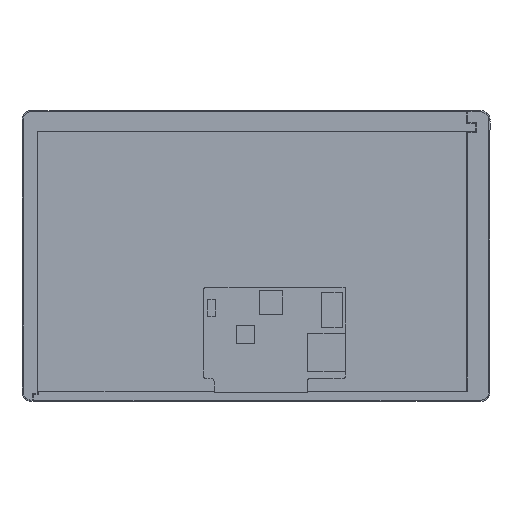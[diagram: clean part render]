
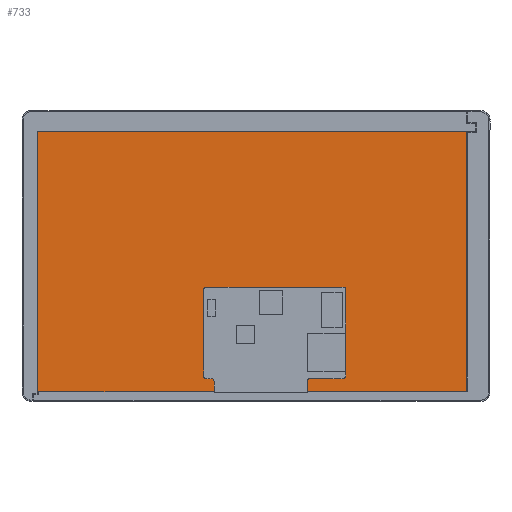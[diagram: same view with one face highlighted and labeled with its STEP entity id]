
A CAD part, top view. The second image highlights one B-rep face of the part: STEP entity #733.
In plain terms, the highlighted planar face has unit normal (0, 0, 1).
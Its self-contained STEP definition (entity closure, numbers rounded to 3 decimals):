
#141=B_SPLINE_CURVE_WITH_KNOTS('',3,(#2866,#2867,#2868,#2869),
 .UNSPECIFIED.,.F.,.F.,(4,4),(0.,1.),.UNSPECIFIED.);
#143=B_SPLINE_CURVE_WITH_KNOTS('',3,(#2881,#2882,#2883,#2884),
 .UNSPECIFIED.,.F.,.F.,(4,4),(0.,1.),.UNSPECIFIED.);
#145=B_SPLINE_CURVE_WITH_KNOTS('',3,(#2893,#2894,#2895,#2896),
 .UNSPECIFIED.,.F.,.F.,(4,4),(0.,1.),.UNSPECIFIED.);
#147=B_SPLINE_CURVE_WITH_KNOTS('',3,(#2905,#2906,#2907,#2908),
 .UNSPECIFIED.,.F.,.F.,(4,4),(0.,1.),.UNSPECIFIED.);
#733=ADVANCED_FACE('',(#925),#832,.F.);
#832=PLANE('',#2313);
#925=FACE_OUTER_BOUND('',#1024,.T.);
#1024=EDGE_LOOP('',(#1249,#1250,#1251,#1252));
#1249=ORIENTED_EDGE('',*,*,#1788,.T.);
#1250=ORIENTED_EDGE('',*,*,#1792,.T.);
#1251=ORIENTED_EDGE('',*,*,#1795,.T.);
#1252=ORIENTED_EDGE('',*,*,#1798,.T.);
#1611=VERTEX_POINT('',#2870);
#1612=VERTEX_POINT('',#2871);
#1615=VERTEX_POINT('',#2885);
#1617=VERTEX_POINT('',#2897);
#1788=EDGE_CURVE('',#1611,#1612,#141,.T.);
#1792=EDGE_CURVE('',#1612,#1615,#143,.T.);
#1795=EDGE_CURVE('',#1615,#1617,#145,.T.);
#1798=EDGE_CURVE('',#1617,#1611,#147,.T.);
#2313=AXIS2_PLACEMENT_3D('',#2915,#2505,#2506);
#2505=DIRECTION('',(0.,0.,-1.));
#2506=DIRECTION('',(-1.,0.,0.));
#2866=CARTESIAN_POINT('',(562.888,58.563,-2.05));
#2867=CARTESIAN_POINT('',(507.934,58.563,-2.05));
#2868=CARTESIAN_POINT('',(452.981,58.563,-2.05));
#2869=CARTESIAN_POINT('',(398.028,58.563,-2.05));
#2870=CARTESIAN_POINT('',(562.888,58.563,-2.05));
#2871=CARTESIAN_POINT('',(398.028,58.563,-2.05));
#2881=CARTESIAN_POINT('',(398.028,58.563,-2.05));
#2882=CARTESIAN_POINT('',(398.028,25.243,-2.05));
#2883=CARTESIAN_POINT('',(398.028,-8.077,-2.05));
#2884=CARTESIAN_POINT('',(398.028,-41.397,-2.05));
#2885=CARTESIAN_POINT('',(398.028,-41.397,-2.05));
#2893=CARTESIAN_POINT('',(398.028,-41.397,-2.05));
#2894=CARTESIAN_POINT('',(452.981,-41.397,-2.05));
#2895=CARTESIAN_POINT('',(507.934,-41.397,-2.05));
#2896=CARTESIAN_POINT('',(562.888,-41.397,-2.05));
#2897=CARTESIAN_POINT('',(562.888,-41.397,-2.05));
#2905=CARTESIAN_POINT('',(562.888,-41.397,-2.05));
#2906=CARTESIAN_POINT('',(562.888,-8.077,-2.05));
#2907=CARTESIAN_POINT('',(562.888,25.243,-2.05));
#2908=CARTESIAN_POINT('',(562.888,58.563,-2.05));
#2915=CARTESIAN_POINT('',(480.458,58.563,-2.05));
